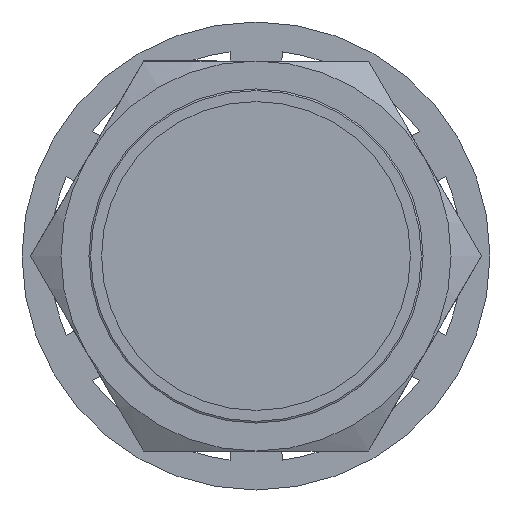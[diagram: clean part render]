
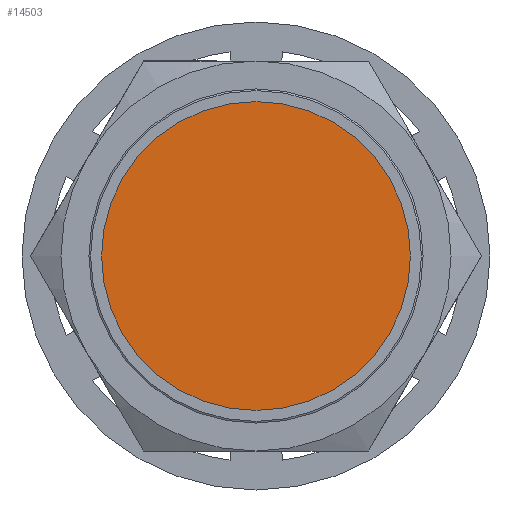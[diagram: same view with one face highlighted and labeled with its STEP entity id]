
A CAD part, left-side view. The second image highlights one B-rep face of the part: STEP entity #14503.
In plain terms, the highlighted planar face has unit normal (-1, 0, 0).
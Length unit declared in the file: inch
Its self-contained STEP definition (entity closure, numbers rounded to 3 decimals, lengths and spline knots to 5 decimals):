
#1153 = VERTEX_POINT ( 'NONE', #12928 ) ;
#1398 = EDGE_CURVE ( 'NONE', #2379, #1153, #13102, .T. ) ;
#2379 = VERTEX_POINT ( 'NONE', #13576 ) ;
#2426 = CIRCLE ( 'NONE', #2427, 0.5465 ) ;
#2427 = AXIS2_PLACEMENT_3D ( 'NONE', #2428, #2429, #2430 ) ;
#2428 = CARTESIAN_POINT ( 'NONE',  ( 8.13765, 8.0391, -0.591 ) ) ;
#2429 = DIRECTION ( 'NONE',  ( 1., 0., 0. ) ) ;
#2430 = DIRECTION ( 'NONE',  ( 0., 0., 1. ) ) ;
#3812 = FACE_OUTER_BOUND ( 'NONE', #14241, .T. ) ;
#3813 = PLANE ( 'NONE',  #3814 ) ;
#3814 = AXIS2_PLACEMENT_3D ( 'NONE', #3815, #3817, #3818 ) ;
#3815 = CARTESIAN_POINT ( 'NONE',  ( 8.13765, 8.0391, -0.591 ) ) ;
#3817 = DIRECTION ( 'NONE',  ( -1., 0., 0. ) ) ;
#3818 = DIRECTION ( 'NONE',  ( 0., 0., 1. ) ) ;
#8429 = ORIENTED_EDGE ( 'NONE', *, *, #1398, .F. ) ;
#12928 = CARTESIAN_POINT ( 'NONE',  ( 8.13765, 8.0391, -0.0445 ) ) ;
#13102 = CIRCLE ( 'NONE', #13103, 0.5465 ) ;
#13103 = AXIS2_PLACEMENT_3D ( 'NONE', #13104, #13105, #13106 ) ;
#13104 = CARTESIAN_POINT ( 'NONE',  ( 8.13765, 8.0391, -0.591 ) ) ;
#13105 = DIRECTION ( 'NONE',  ( 1., 0., 0. ) ) ;
#13106 = DIRECTION ( 'NONE',  ( 0., 0., 1. ) ) ;
#13238 = EDGE_CURVE ( 'NONE', #1153, #2379, #2426, .T. ) ;
#13576 = CARTESIAN_POINT ( 'NONE',  ( 8.13765, 8.0391, -1.1375 ) ) ;
#13661 = ORIENTED_EDGE ( 'NONE', *, *, #13238, .F. ) ;
#14241 = EDGE_LOOP ( 'NONE', ( #13661, #8429 ) ) ;
#14503 = ADVANCED_FACE ( 'NONE', ( #3812 ), #3813, .T. ) ;
